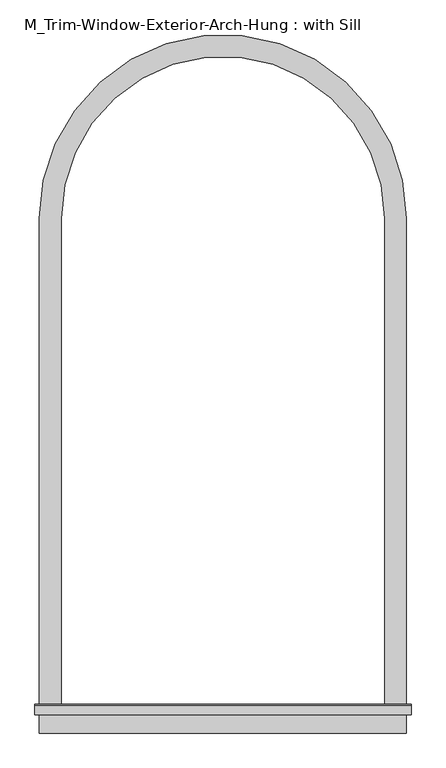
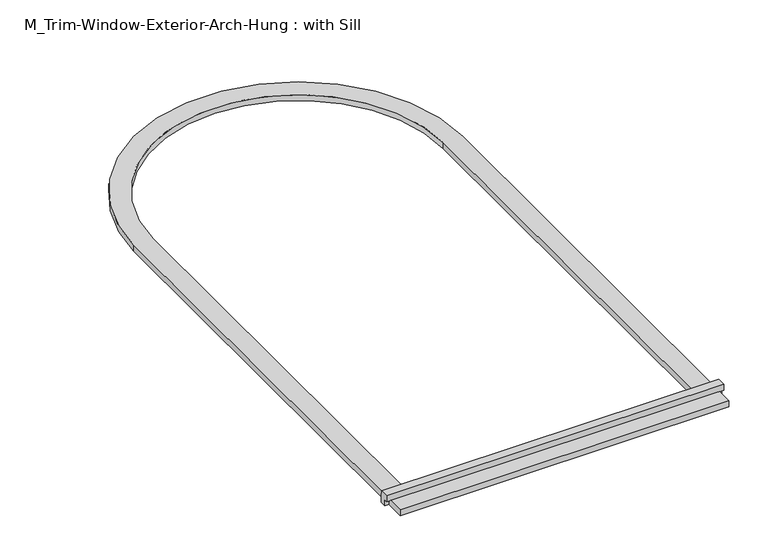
"""IFC4 building model written with IfcOpenShell, lengths in millimetres: proxy geometry, M_Trim-Window-Exterior-Arch-Hung : with Sill."""

from ifc_helpers import new_model, si_unit, point, frame, frame_2d, origin, origin_with_axes, place, context, project, spatial, polyline, circle_curve, trimmed, segment, composite_curve, outline, extrude, source, transform, mapped, element, save


def m_trim_window_exterior_arch_hung_with_sill_d6b66b3f(model_context):
    return source(origin(), model_context, "Body", "SweptSolid", [
        extrude(outline(polyline([(510.0, -1820.4323709), (510.0, -1880.4323709), (-510.0, -1880.4323709), (-510.0, -1820.4323709), (510.0, -1820.4323709)])), origin_with_axes(), (0.0, 0.0, 1.0), 19.1),
        extrude(outline(polyline([(-1830.0, 38.15), (-1802.4580645, 38.15), (-1800.0, 19.1), (-1800.0, 0.0), (-1820.4323709, 0.0), (-1820.4323709, 19.1), (-1830.0, 19.1), (-1830.0, 38.15)])), frame((-522.7, 0.0, 0.0), z_axis=(1.0, 0.0, 0.0), x_axis=(0.0, 1.0, 0.0)), (0.0, 0.0, 1.0), 1045.4),
        extrude(outline(composite_curve([segment(trimmed(circle_curve(frame_2d((0.0, -450.0)), 510.0), [point((-510.0, -450.0))], [point((510.0, -450.0))], False, "CARTESIAN"), True, "CONTINUOUS"), segment(polyline([(510.0, -450.0), (510.0, -1800.0), (450.0, -1800.0), (450.0, -450.0)]), True, "CONTINUOUS"), segment(trimmed(circle_curve(frame_2d((0.0, -450.0)), 450.0), [point((450.0, -450.0))], [point((-450.0, -450.0))], True, "CARTESIAN"), True, "CONTINUOUS"), segment(polyline([(-450.0, -450.0), (-450.0, -1800.0), (-510.0, -1800.0), (-510.0, -450.0)]), True, "CONTINUOUS")], self_intersect=False)), origin_with_axes(), (0.0, 0.0, 1.0), 19.1),
    ])


if __name__ == "__main__":
    model = new_model("IFC4")
    model_context = context("Model", 3, world=origin())
    ifc_project = project(units=[si_unit("LENGTHUNIT", "METRE", prefix="MILLI")], contexts=[model_context])
    site = spatial("IfcSite", under=ifc_project)
    building = spatial("IfcBuilding", under=site)
    placement = place(None, origin())
    m_trim_window_exterior_arch_hung_with_sill_shape = m_trim_window_exterior_arch_hung_with_sill_d6b66b3f(model_context)
    element("IfcBuildingElementProxy", 1, Name="M_Trim-Window-Exterior-Arch-Hung : with Sill", ObjectType="M_Trim-Window-Exterior-Arch-Hung : with Sill", at=placement, inside=building, context=model_context, shape_type="MappedRepresentation", body=[
        mapped(m_trim_window_exterior_arch_hung_with_sill_shape, transform((0.0, 0.0, 0.0), x_axis=(1.0, 0.0, 0.0), y_axis=(0.0, 1.0, 0.0), z_axis=(0.0, 0.0, 1.0))),
    ])
    save(model, "model.ifc")
